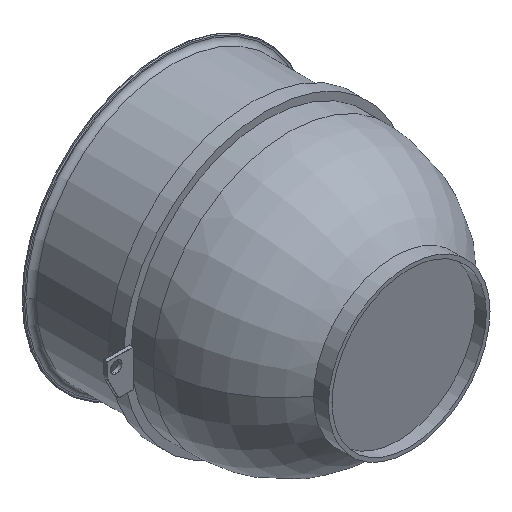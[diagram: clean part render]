
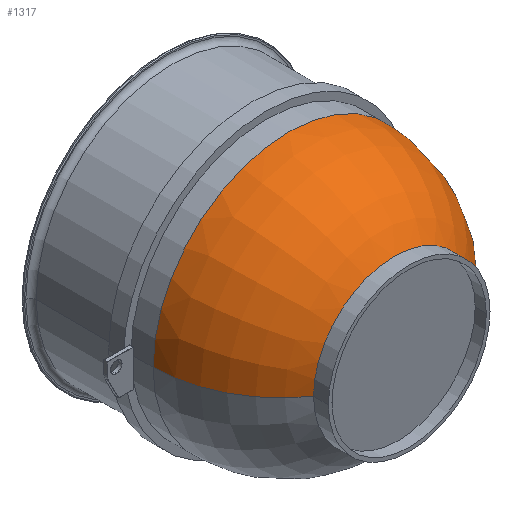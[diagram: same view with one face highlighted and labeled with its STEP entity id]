
A CAD part, isometric view. The second image highlights one B-rep face of the part: STEP entity #1317.
In plain terms, the highlighted toroidal (fillet/blend) face has major radius 12.482 mm and minor radius 220.652 mm.
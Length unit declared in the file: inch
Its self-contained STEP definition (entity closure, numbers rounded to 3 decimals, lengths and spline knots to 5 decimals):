
#133 = AXIS2_PLACEMENT_3D ( 'NONE', #1986, #3104, #620 ) ;
#296 = DIRECTION ( 'NONE',  ( -1., 0., 0. ) ) ;
#620 = DIRECTION ( 'NONE',  ( 1., 0., 0. ) ) ;
#668 = EDGE_LOOP ( 'NONE', ( #2661, #4740, #2224, #1800 ) ) ;
#678 = AXIS2_PLACEMENT_3D ( 'NONE', #5396, #2032, #1134 ) ;
#1134 = DIRECTION ( 'NONE',  ( 1., 0., 0. ) ) ;
#1317 = ADVANCED_FACE ( 'NONE', ( #4584 ), #3056, .T. ) ;
#1480 = DIRECTION ( 'NONE',  ( 0., 0., -1. ) ) ;
#1800 = ORIENTED_EDGE ( 'NONE', *, *, #3700, .F. ) ;
#1821 = VERTEX_POINT ( 'NONE', #5205 ) ;
#1986 = CARTESIAN_POINT ( 'NONE',  ( 0., 8.5, 0. ) ) ;
#2032 = DIRECTION ( 'NONE',  ( 0., -1., 0. ) ) ;
#2224 = ORIENTED_EDGE ( 'NONE', *, *, #3973, .F. ) ;
#2412 = CARTESIAN_POINT ( 'NONE',  ( -9.17852, 8.5, 0. ) ) ;
#2661 = ORIENTED_EDGE ( 'NONE', *, *, #4298, .T. ) ;
#2781 = DIRECTION ( 'NONE',  ( 1., 0., 0. ) ) ;
#2849 = VERTEX_POINT ( 'NONE', #3078 ) ;
#2850 = CIRCLE ( 'NONE', #5117, 8.6871 ) ;
#2894 = EDGE_CURVE ( 'NONE', #3708, #1821, #4795, .T. ) ;
#3037 = AXIS2_PLACEMENT_3D ( 'NONE', #3623, #4883, #2781 ) ;
#3056 = TOROIDAL_SURFACE ( 'NONE', #678, 0.49142, 8.6871 ) ;
#3078 = CARTESIAN_POINT ( 'NONE',  ( 9.17852, 8.5, 0. ) ) ;
#3104 = DIRECTION ( 'NONE',  ( 0., -1., 0. ) ) ;
#3529 = CARTESIAN_POINT ( 'NONE',  ( 0., 1.375, 0. ) ) ;
#3579 = CIRCLE ( 'NONE', #133, 9.17852 ) ;
#3623 = CARTESIAN_POINT ( 'NONE',  ( -0.49142, 8.5, 0. ) ) ;
#3700 = EDGE_CURVE ( 'NONE', #2849, #3901, #2850, .T. ) ;
#3708 = VERTEX_POINT ( 'NONE', #2412 ) ;
#3801 = CARTESIAN_POINT ( 'NONE',  ( 5.46134, 1.375, 0. ) ) ;
#3901 = VERTEX_POINT ( 'NONE', #3801 ) ;
#3905 = DIRECTION ( 'NONE',  ( 0., -1., 0. ) ) ;
#3914 = CIRCLE ( 'NONE', #4095, 5.46134 ) ;
#3973 = EDGE_CURVE ( 'NONE', #3901, #1821, #3914, .T. ) ;
#4095 = AXIS2_PLACEMENT_3D ( 'NONE', #3529, #3905, #4308 ) ;
#4298 = EDGE_CURVE ( 'NONE', #2849, #3708, #3579, .T. ) ;
#4308 = DIRECTION ( 'NONE',  ( 1., 0., 0. ) ) ;
#4584 = FACE_OUTER_BOUND ( 'NONE', #668, .T. ) ;
#4740 = ORIENTED_EDGE ( 'NONE', *, *, #2894, .T. ) ;
#4795 = CIRCLE ( 'NONE', #3037, 8.6871 ) ;
#4883 = DIRECTION ( 'NONE',  ( 0., 0., 1. ) ) ;
#5117 = AXIS2_PLACEMENT_3D ( 'NONE', #5240, #1480, #296 ) ;
#5205 = CARTESIAN_POINT ( 'NONE',  ( -5.46134, 1.375, 0. ) ) ;
#5240 = CARTESIAN_POINT ( 'NONE',  ( 0.49142, 8.5, 0. ) ) ;
#5396 = CARTESIAN_POINT ( 'NONE',  ( 0., 8.5, 0. ) ) ;
